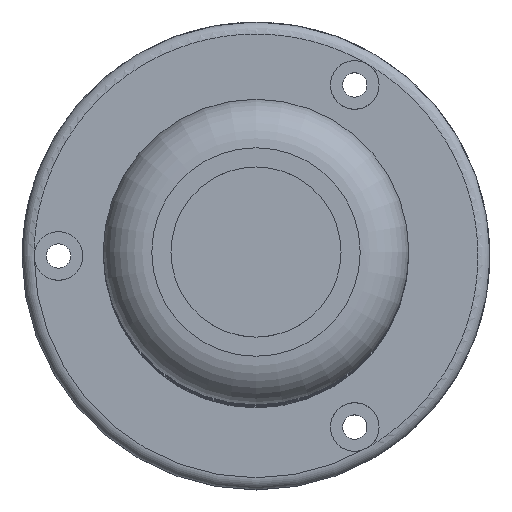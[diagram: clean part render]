
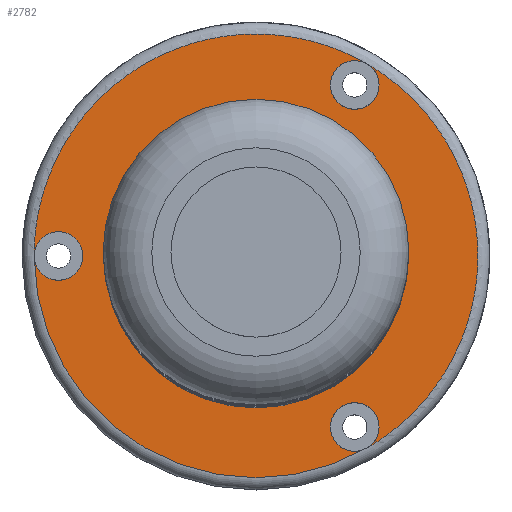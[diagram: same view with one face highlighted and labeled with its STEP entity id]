
A CAD part, top view. The second image highlights one B-rep face of the part: STEP entity #2782.
In plain terms, the highlighted planar face has unit normal (0, 0, -1).
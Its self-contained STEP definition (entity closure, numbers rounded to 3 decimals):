
#279=PLANE('',#35699);
#2175=FACE_BOUND('',#6883,.T.);
#2176=FACE_BOUND('',#6884,.T.);
#2177=FACE_BOUND('',#6885,.T.);
#2178=FACE_BOUND('',#6886,.T.);
#2179=FACE_BOUND('',#6887,.T.);
#2782=ADVANCED_FACE('',(#2175,#2176,#2177,#2178,#2179),#279,.T.);
#6883=EDGE_LOOP('',(#10656));
#6884=EDGE_LOOP('',(#10657));
#6885=EDGE_LOOP('',(#10658));
#6886=EDGE_LOOP('',(#10659));
#6887=EDGE_LOOP('',(#10660));
#10367=CIRCLE('',#35683,10.75);
#10375=CIRCLE('',#35695,2.);
#10376=CIRCLE('',#35696,2.);
#10377=CIRCLE('',#35697,2.);
#10378=CIRCLE('',#35698,38.);
#10656=ORIENTED_EDGE('',*,*,#23518,.T.);
#10657=ORIENTED_EDGE('',*,*,#23519,.T.);
#10658=ORIENTED_EDGE('',*,*,#23520,.T.);
#10659=ORIENTED_EDGE('',*,*,#23521,.T.);
#10660=ORIENTED_EDGE('',*,*,#23508,.F.);
#20238=VERTEX_POINT('',#49922);
#20248=VERTEX_POINT('',#50076);
#20249=VERTEX_POINT('',#50078);
#20250=VERTEX_POINT('',#50080);
#20251=VERTEX_POINT('',#50082);
#23508=EDGE_CURVE('',#20238,#20238,#10367,.T.);
#23518=EDGE_CURVE('',#20248,#20248,#10375,.T.);
#23519=EDGE_CURVE('',#20249,#20249,#10376,.T.);
#23520=EDGE_CURVE('',#20250,#20250,#10377,.T.);
#23521=EDGE_CURVE('',#20251,#20251,#10378,.T.);
#35683=AXIS2_PLACEMENT_3D('',#49921,#37906,#37907);
#35695=AXIS2_PLACEMENT_3D('',#50075,#37930,#37931);
#35696=AXIS2_PLACEMENT_3D('',#50077,#37932,#37933);
#35697=AXIS2_PLACEMENT_3D('',#50079,#37934,#37935);
#35698=AXIS2_PLACEMENT_3D('',#50081,#37936,#37937);
#35699=AXIS2_PLACEMENT_3D('',#50083,#37938,#37939);
#37906=DIRECTION('',(0.,0.,-1.));
#37907=DIRECTION('',(-1.,0.,0.));
#37930=DIRECTION('',(0.,0.,1.));
#37931=DIRECTION('',(1.,0.,0.));
#37932=DIRECTION('',(0.,0.,1.));
#37933=DIRECTION('',(1.,0.,0.));
#37934=DIRECTION('',(0.,0.,1.));
#37935=DIRECTION('',(1.,0.,0.));
#37936=DIRECTION('',(0.,0.,-1.));
#37937=DIRECTION('',(-1.,0.,0.));
#37938=DIRECTION('',(0.,0.,-1.));
#37939=DIRECTION('',(1.,0.,0.));
#49921=CARTESIAN_POINT('',(300.,-200.,-167.702));
#49922=CARTESIAN_POINT('',(289.25,-200.,-167.702));
#50075=CARTESIAN_POINT('',(316.25,-171.854,-167.702));
#50076=CARTESIAN_POINT('',(318.25,-171.854,-167.702));
#50077=CARTESIAN_POINT('',(316.25,-228.146,-167.702));
#50078=CARTESIAN_POINT('',(318.25,-228.146,-167.702));
#50079=CARTESIAN_POINT('',(267.5,-200.,-167.702));
#50080=CARTESIAN_POINT('',(269.5,-200.,-167.702));
#50081=CARTESIAN_POINT('',(300.,-200.,-167.702));
#50082=CARTESIAN_POINT('',(262.,-200.,-167.702));
#50083=CARTESIAN_POINT('',(300.,-200.,-167.702));
